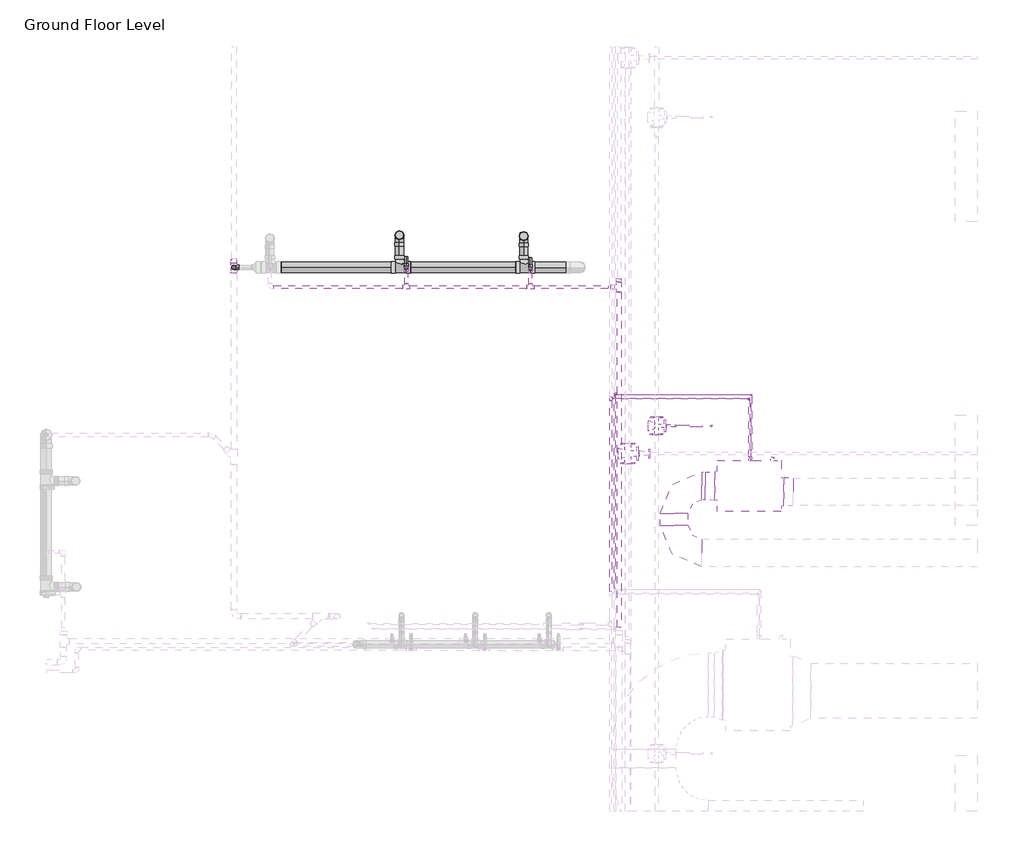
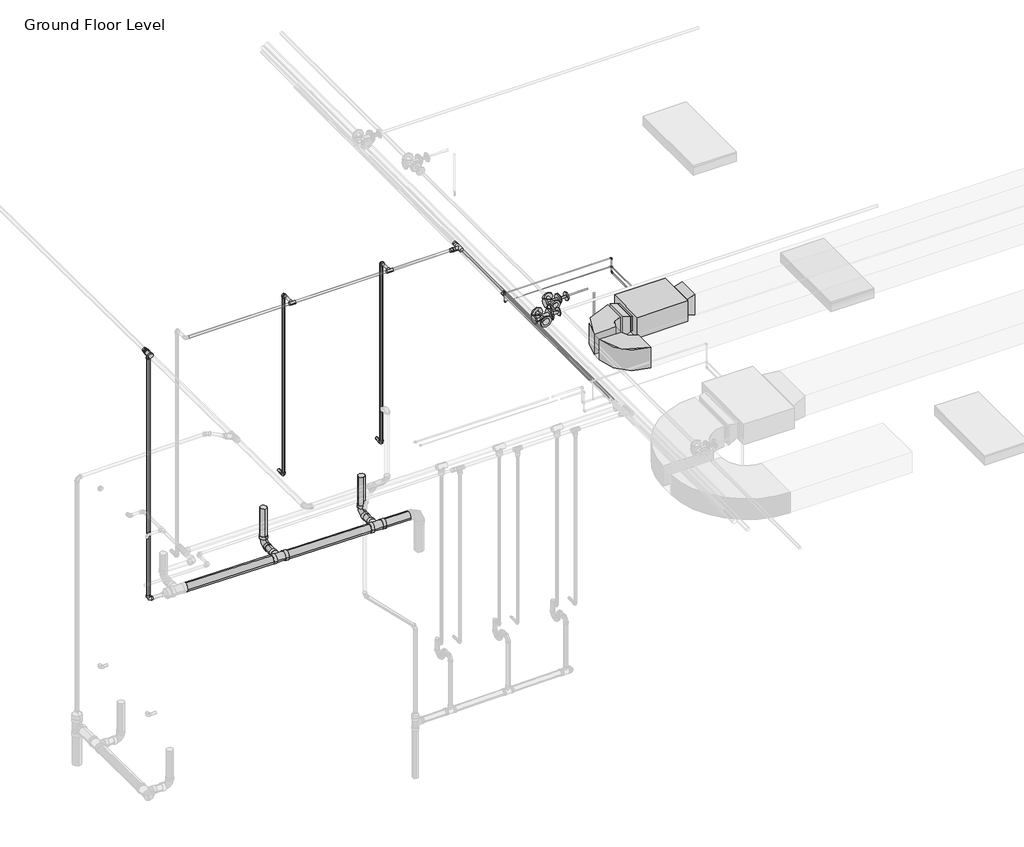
# One storey, part 20 of 74: 29 pipe segments, 28 pipe fittings, 4 duct fittings, 2 duct segments, 1 fire suppression terminal, 1 proxy.
"""IFC4 building model written with IfcOpenShell, lengths in millimetres."""

from ifc_helpers import new_model, si_unit, point, frame, frame_2d, origin, place, context, project, spatial, polyline, circle_curve, trimmed, segment, composite_curve, outline, extrude, transform, mapped, element, save
from components import fcu_daikin_iu_27d020f6, m_rectangular_elbow_radius_1_w_618da153, m_rectangular_transition_angle_45_degree_bfac0661, m_rectangular_transition_angle_45_degree_d4666cfa, m_sprinkler_pendent_15_mm_pendent_06fcbd8e, m_bend_pvc_sch_40_dwv_standard_a4b99d37, m_bend_pvc_sch_40_dwv_standard_877aed9a, m_elbow_generic_standard_a088f956, m_elbow_generic_standard_2a704253, m_reducer_flanged_cs_class_150_standard_d42b2106, m_reducer_flanged_cs_class_150_standard_a7631c35, m_reducer_pvc_sch_40_dwv_standard_230e9924, m_tee_generic_standard_5b2ed4d4, m_tee_generic_standard_5078887e, m_tee_reducing_sanitary_pvc_sch_40_dwv_standard_b49161a9, m_tee_reducing_sanitary_pvc_sch_40_dwv_standard_ca98856a, m_tee_round_base_flanged_cs_class_150_standard_dd767e04, m_tee_round_base_flanged_cs_class_150_standard_7e5987a1, m_transition_generic_standard_44e35838, m_transition_generic_standard_2d362458, standard_517a5a8d, standard_72b35c3b, standard_08ff6011, standard_d0d0b892

model = new_model("IFC4")

# Units and contexts
model_context = context("Model", 3, world=origin())
ifc_project = project(units=[si_unit("LENGTHUNIT", "METRE", prefix="MILLI")], contexts=[model_context])

# Site, building, storey
site = spatial("IfcSite", under=ifc_project)
building = spatial("IfcBuilding", under=site)
storey = spatial("IfcBuildingStorey", under=building, Name="Ground Floor Level", Elevation=900.0)

# Proxy
placement = place(None, origin())
fcu_daikin_iu_shape = fcu_daikin_iu_27d020f6(model_context)
element("IfcBuildingElementProxy", 1, Name="FCU-DAIKIN IU : 2.3kW, 230V/50Hz/1Ph", ObjectType="FCU-DAIKIN IU : 2.3kW, 230V/50Hz/1Ph", at=placement, inside=storey, context=model_context, shape_type="MappedRepresentation", body=[
    mapped(fcu_daikin_iu_shape, transform((7003.8644074, -31136.6877703, 4080.0), x_axis=(0.0, 1.0, 0.0), y_axis=(-1.0, 0.0, 0.0), z_axis=(0.0, 0.0, 1.0))),
])

# Duct fittings
m_rectangular_elbow_radius_1_w_shape = m_rectangular_elbow_radius_1_w_618da153(model_context)
element("IfcDuctFitting", 2, ObjectType="M_Rectangular Elbow - Radius : 1 W", at=placement, inside=storey, context=model_context, shape_type="MappedRepresentation", body=[
    mapped(m_rectangular_elbow_radius_1_w_shape, transform((6188.4644074, -31136.6877703, 4221.2), x_axis=(-1.0, 0.0, 0.0), y_axis=(0.0, -1.0, 0.0), z_axis=(0.0, 0.0, 1.0))),
])
element("IfcDuctFitting", 3, ObjectType="M_Rectangular Elbow - Radius : 1 W", at=placement, inside=storey, context=model_context, shape_type="MappedRepresentation", body=[
    mapped(m_rectangular_elbow_radius_1_w_shape, transform((6188.4644074, -31864.7846466, 4221.2), x_axis=(0.0, -1.0, 0.0), y_axis=(1.0, 0.0, 0.0), z_axis=(0.0, 0.0, 1.0))),
])
m_rectangular_transition_angle_45_degree_shape = m_rectangular_transition_angle_45_degree_bfac0661(model_context)
element("IfcDuctFitting", 4, ObjectType="M_Rectangular Transition - Angle : 45 Degree", at=placement, inside=storey, context=model_context, shape_type="MappedRepresentation", body=[
    mapped(m_rectangular_transition_angle_45_degree_shape, transform((6628.4644074, -31136.6877703, 4221.2), x_axis=(-1.0, 0.0, 0.0), y_axis=(0.0, -1.0, 0.0), z_axis=(0.0, 0.0, 1.0))),
])
m_rectangular_transition_angle_45_degree_2_shape = m_rectangular_transition_angle_45_degree_d4666cfa(model_context)
element("IfcDuctFitting", 5, ObjectType="M_Rectangular Transition - Angle : 45 Degree", at=placement, inside=storey, context=model_context, shape_type="MappedRepresentation", body=[
    mapped(m_rectangular_transition_angle_45_degree_2_shape, transform((7379.2644074, -31200.1877703, 4245.9125), x_axis=(1.0, 0.0, 0.0), y_axis=(0.0, 1.0, 0.0), z_axis=(0.0, 0.0, 1.0))),
])

# Duct segments
element("IfcDuctSegment", 6, ObjectType="Radius Elbows / Taps", at=placement, inside=storey, context=model_context, shape_type="SweptSolid", body=[
    extrude(outline(polyline([(6525.0153563, -30986.6877703), (6525.0153563, -31286.6877703), (6488.4644074, -31286.6877703), (6488.4644074, -30986.6877703), (6525.0153563, -30986.6877703)])), frame((0.0, 0.0, 4071.2), z_axis=(0.0, 0.0, 1.0), x_axis=(1.0, 0.0, 0.0)), (0.0, 0.0, 1.0), 300.0),
])
element("IfcDuctSegment", 7, ObjectType="Radius Elbows / Taps", at=placement, inside=storey, context=model_context, shape_type="SweptSolid", body=[
    extrude(outline(polyline([(6038.4644074, -31436.6877703), (6338.4644074, -31436.6877703), (6338.4644074, -31564.7846466), (6038.4644074, -31564.7846466), (6038.4644074, -31436.6877703)])), frame((0.0, 0.0, 4071.2), z_axis=(0.0, 0.0, 1.0), x_axis=(1.0, 0.0, 0.0)), (0.0, 0.0, 1.0), 300.0),
])

# Fire suppression terminal
m_sprinkler_pendent_15_mm_pendent_shape = m_sprinkler_pendent_15_mm_pendent_06fcbd8e(model_context)
element("IfcFireSuppressionTerminal", 8, ObjectType="M_Sprinkler - Pendent : 15 mm Pendent", at=placement, inside=storey, context=model_context, shape_type="MappedRepresentation", body=[
    mapped(m_sprinkler_pendent_15_mm_pendent_shape, transform((6592.5481019, -30483.0742399, 3650.0), x_axis=(1.0, 0.0, 0.0), y_axis=(0.0, 1.0, 0.0), z_axis=(0.0, 0.0, 1.0))),
])

# Pipe fittings
m_bend_pvc_sch_40_dwv_standard_shape = m_bend_pvc_sch_40_dwv_standard_a4b99d37(model_context)
element("IfcPipeFitting", 9, ObjectType="M_Bend - PVC - Sch 40 - DWV : Standard", at=placement, inside=storey, context=model_context, shape_type="MappedRepresentation", body=[
    mapped(m_bend_pvc_sch_40_dwv_standard_shape, transform((3203.6056556, -28411.2419494, 467.9903626), x_axis=(0.0, 0.0, -1.0), y_axis=(0.0, -1.0, 0.0), z_axis=(-1.0, 0.0, 0.0))),
])
element("IfcPipeFitting", 10, ObjectType="M_Bend - PVC - Sch 40 - DWV : Standard", at=placement, inside=storey, context=model_context, shape_type="MappedRepresentation", body=[
    mapped(m_bend_pvc_sch_40_dwv_standard_shape, transform((4553.7150181, -28421.2419494, 454.489269), x_axis=(0.0, 0.0, -1.0), y_axis=(0.0, -1.0, 0.0), z_axis=(-1.0, 0.0, 0.0))),
])
m_bend_pvc_sch_40_dwv_standard_2_shape = m_bend_pvc_sch_40_dwv_standard_877aed9a(model_context)
element("IfcPipeFitting", 11, ObjectType="M_Bend - PVC - Sch 40 - DWV : Standard", at=placement, inside=storey, context=model_context, shape_type="MappedRepresentation", body=[
    mapped(m_bend_pvc_sch_40_dwv_standard_2_shape, transform((1404.8669708, -28761.5689421, 485.9777495), x_axis=(-0.9999500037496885, 0.0, 0.009999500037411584), y_axis=(0.009999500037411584, 0.0, 0.9999500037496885), z_axis=(0.0, 1.0, 0.0))),
])
m_elbow_generic_standard_shape = m_elbow_generic_standard_a088f956(model_context)
element("IfcPipeFitting", 12, ObjectType="M_Elbow - Generic : Standard", at=placement, inside=storey, context=model_context, shape_type="MappedRepresentation", body=[
    mapped(m_elbow_generic_standard_shape, transform((7003.8644074, -30187.4513653, 4390.0), x_axis=(1.0, 0.0, 0.0), y_axis=(0.0, 0.0, -1.0), z_axis=(0.0, 1.0, 0.0))),
])
element("IfcPipeFitting", 13, ObjectType="M_Elbow - Generic : Standard", at=placement, inside=storey, context=model_context, shape_type="MappedRepresentation", body=[
    mapped(m_elbow_generic_standard_shape, transform((7003.8644074, -30187.4513653, 4180.0), x_axis=(0.0, 0.0, -1.0), y_axis=(0.0, -1.0, 0.0), z_axis=(-1.0, 0.0, 0.0))),
])
m_elbow_generic_standard_2_shape = m_elbow_generic_standard_2a704253(model_context)
element("IfcPipeFitting", 14, ObjectType="M_Elbow - Generic : Standard", at=placement, inside=storey, context=model_context, shape_type="MappedRepresentation", body=[
    mapped(m_elbow_generic_standard_2_shape, transform((7028.8644074, -30144.9316538, 4230.8), x_axis=(0.0, 1.0, 0.0), y_axis=(-1.0, 0.0, 0.0), z_axis=(0.0, 0.0, 1.0))),
])
element("IfcPipeFitting", 15, ObjectType="M_Elbow - Generic : Standard", at=placement, inside=storey, context=model_context, shape_type="MappedRepresentation", body=[
    mapped(m_elbow_generic_standard_2_shape, transform((5543.9904113, -30144.9316538, 4230.8), x_axis=(0.0, 0.0, -1.0), y_axis=(1.0, 0.0, 0.0), z_axis=(0.0, -1.0, 0.0))),
])
m_reducer_flanged_cs_class_150_standard_shape = m_reducer_flanged_cs_class_150_standard_d42b2106(model_context)
element("IfcPipeFitting", 16, ObjectType="M_Reducer - Flanged - CS - Class 150 : Standard", at=placement, inside=storey, context=model_context, shape_type="MappedRepresentation", body=[
    mapped(m_reducer_flanged_cs_class_150_standard_shape, transform((6097.7664057, -30483.0742399, 4291.2754753), x_axis=(1.0, 0.0, 0.0), y_axis=(0.0, 0.0, -1.0), z_axis=(0.0, 1.0, 0.0))),
])
m_reducer_flanged_cs_class_150_standard_2_shape = m_reducer_flanged_cs_class_150_standard_a7631c35(model_context)
element("IfcPipeFitting", 17, ObjectType="M_Reducer - Flanged - CS - Class 150 : Standard", at=placement, inside=storey, context=model_context, shape_type="MappedRepresentation", body=[
    mapped(m_reducer_flanged_cs_class_150_standard_2_shape, transform((5798.6174894, -30785.1783804, 4347.5), x_axis=(1.0, 0.0, 0.0), y_axis=(0.0, 0.0, 1.0), z_axis=(0.0, -1.0, 0.0))),
])
m_reducer_pvc_sch_40_dwv_standard_shape = m_reducer_pvc_sch_40_dwv_standard_230e9924(model_context)
element("IfcPipeFitting", 18, ObjectType="M_Reducer - PVC - Sch 40 - DWV : Standard", at=placement, inside=storey, context=model_context, shape_type="MappedRepresentation", body=[
    mapped(m_reducer_pvc_sch_40_dwv_standard_shape, transform((1404.8829692, -28664.0719039, 4086.0016836), x_axis=(0.0, -0.9999500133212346, 0.00999854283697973), y_axis=(1.0, 0.0, 0.0), z_axis=(0.0, 0.00999854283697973, 0.9999500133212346))),
])
m_tee_generic_standard_shape = m_tee_generic_standard_5b2ed4d4(model_context)
element("IfcPipeFitting", 19, ObjectType="M_Tee - Generic : Standard", at=placement, inside=storey, context=model_context, shape_type="MappedRepresentation", body=[
    mapped(m_tee_generic_standard_shape, transform((5543.9904113, -30144.9316538, 4377.5), x_axis=(0.0, -1.0, 0.0), y_axis=(0.0, 0.0, 1.0), z_axis=(-1.0, 0.0, 0.0))),
])
m_tee_generic_standard_2_shape = m_tee_generic_standard_5078887e(model_context)
element("IfcPipeFitting", 20, ObjectType="M_Tee - Generic : Standard", at=placement, inside=storey, context=model_context, shape_type="MappedRepresentation", body=[
    mapped(m_tee_generic_standard_2_shape, transform((5497.8951827, -30187.4513653, 4390.0), x_axis=(0.0, -1.0, 0.0), y_axis=(-1.0, 0.0, 0.0), z_axis=(0.0, 0.0, -1.0))),
])
m_tee_reducing_sanitary_pvc_sch_40_dwv_standard_shape = m_tee_reducing_sanitary_pvc_sch_40_dwv_standard_b49161a9(model_context)
element("IfcPipeFitting", 21, ObjectType="M_Tee Reducing Sanitary - PVC - Sch 40 - DWV : Standard", at=placement, inside=storey, context=model_context, shape_type="MappedRepresentation", body=[
    mapped(m_tee_reducing_sanitary_pvc_sch_40_dwv_standard_shape, transform((3203.6056556, -28761.5689421, 467.9903626), x_axis=(-0.9999500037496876, 0.0, 0.00999950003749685), y_axis=(0.0, -1.0, 0.0), z_axis=(0.00999950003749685, 0.0, 0.9999500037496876))),
])
element("IfcPipeFitting", 22, ObjectType="M_Tee Reducing Sanitary - PVC - Sch 40 - DWV : Standard", at=placement, inside=storey, context=model_context, shape_type="MappedRepresentation", body=[
    mapped(m_tee_reducing_sanitary_pvc_sch_40_dwv_standard_shape, transform((4553.7150181, -28761.5689421, 454.489269), x_axis=(-0.9999500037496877, 0.0, 0.009999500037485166), y_axis=(0.0, -1.0, 0.0), z_axis=(0.009999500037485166, 0.0, 0.9999500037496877))),
])
m_tee_reducing_sanitary_pvc_sch_40_dwv_standard_2_shape = m_tee_reducing_sanitary_pvc_sch_40_dwv_standard_ca98856a(model_context)
element("IfcPipeFitting", 23, ObjectType="M_Tee Reducing Sanitary - PVC - Sch 40 - DWV : Standard", at=placement, inside=storey, context=model_context, shape_type="MappedRepresentation", body=[
    mapped(m_tee_reducing_sanitary_pvc_sch_40_dwv_standard_2_shape, transform((1404.8829692, -28761.5849374, 4087.2766918), x_axis=(0.0, 0.9999500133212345, -0.009998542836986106), y_axis=(0.0, 0.009998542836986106, 0.9999500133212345), z_axis=(1.0, 0.0, 0.0))),
])
m_tee_round_base_flanged_cs_class_150_standard_shape = m_tee_round_base_flanged_cs_class_150_standard_dd767e04(model_context)
element("IfcPipeFitting", 24, ObjectType="M_Tee Round Base - Flanged - CS - Class 150 : Standard", at=placement, inside=storey, context=model_context, shape_type="MappedRepresentation", body=[
    mapped(m_tee_round_base_flanged_cs_class_150_standard_shape, transform((5684.6174894, -30785.1783804, 4347.5), x_axis=(0.0, -1.0, 0.0), y_axis=(-1.0, 0.0, 0.0), z_axis=(0.0, 0.0, -1.0))),
])
m_tee_round_base_flanged_cs_class_150_standard_2_shape = m_tee_round_base_flanged_cs_class_150_standard_7e5987a1(model_context)
element("IfcPipeFitting", 25, ObjectType="M_Tee Round Base - Flanged - CS - Class 150 : Standard", at=placement, inside=storey, context=model_context, shape_type="MappedRepresentation", body=[
    mapped(m_tee_round_base_flanged_cs_class_150_standard_2_shape, transform((5997.057812, -30483.0742399, 4291.0943441), x_axis=(0.0, 1.0, 0.0), y_axis=(-1.0, 0.0, 0.0), z_axis=(0.0, 0.0, 1.0))),
])
m_transition_generic_standard_shape = m_transition_generic_standard_44e35838(model_context)
element("IfcPipeFitting", 26, ObjectType="M_Transition - Generic : Standard", at=placement, inside=storey, context=model_context, shape_type="MappedRepresentation", body=[
    mapped(m_transition_generic_standard_shape, transform((5521.7076827, -30187.4513653, 4390.0), x_axis=(1.0, 0.0, 0.0), y_axis=(0.0, 1.0, 0.0), z_axis=(0.0, 0.0, 1.0))),
])
m_transition_generic_standard_2_shape = m_transition_generic_standard_2d362458(model_context)
element("IfcPipeFitting", 27, ObjectType="M_Transition - Generic : Standard", at=placement, inside=storey, context=model_context, shape_type="MappedRepresentation", body=[
    mapped(m_transition_generic_standard_2_shape, transform((5543.9904113, -30144.9316538, 4356.8625), x_axis=(0.0, 0.0, -1.0), y_axis=(1.0, 0.0, 0.0), z_axis=(0.0, -1.0, 0.0))),
])
standard_shape = standard_517a5a8d(model_context)
element("IfcPipeFitting", 28, ObjectType="M_Elbow - CPVC - Sch 40 : Standard", at=placement, inside=storey, context=model_context, shape_type="MappedRepresentation", body=[
    mapped(standard_shape, transform((4627.1152882, -28774.7846466, 1655.0), x_axis=(0.0, -1.0, 0.0), y_axis=(0.0, 0.0, 1.0), z_axis=(-1.0, 0.0, 0.0))),
])
element("IfcPipeFitting", 29, ObjectType="M_Elbow - CPVC - Sch 40 : Standard", at=placement, inside=storey, context=model_context, shape_type="MappedRepresentation", body=[
    mapped(standard_shape, transform((4627.1152882, -28774.7846466, 4300.0), x_axis=(0.0, 0.0, 1.0), y_axis=(0.0, -1.0, 0.0), z_axis=(1.0, 0.0, 0.0))),
])
element("IfcPipeFitting", 30, ObjectType="M_Elbow - CPVC - Sch 40 : Standard", at=placement, inside=storey, context=model_context, shape_type="MappedRepresentation", body=[
    mapped(standard_shape, transform((3277.0059257, -28764.7846466, 1655.0), x_axis=(0.0, -1.0, 0.0), y_axis=(0.0, 0.0, 1.0), z_axis=(-1.0, 0.0, 0.0))),
])
element("IfcPipeFitting", 31, ObjectType="M_Elbow - CPVC - Sch 40 : Standard", at=placement, inside=storey, context=model_context, shape_type="MappedRepresentation", body=[
    mapped(standard_shape, transform((3277.0059257, -28764.7846466, 4300.0), x_axis=(0.0, 0.0, 1.0), y_axis=(0.0, -1.0, 0.0), z_axis=(1.0, 0.0, 0.0))),
])
standard_2_shape = standard_72b35c3b(model_context)
element("IfcPipeFitting", 32, ObjectType="M_Tee - CPVC - Sch 40 : Standard", at=placement, inside=storey, context=model_context, shape_type="MappedRepresentation", body=[
    mapped(standard_2_shape, transform((4627.1152882, -28974.7846466, 4300.0), x_axis=(-1.0, 0.0, 0.0), y_axis=(0.0, -1.0, 0.0), z_axis=(0.0, 0.0, 1.0))),
])
element("IfcPipeFitting", 33, ObjectType="M_Tee - CPVC - Sch 40 : Standard", at=placement, inside=storey, context=model_context, shape_type="MappedRepresentation", body=[
    mapped(standard_2_shape, transform((3277.0059257, -28974.7846466, 4300.0), x_axis=(1.0, 0.0, 0.0), y_axis=(0.0, -1.0, 0.0), z_axis=(0.0, 0.0, -1.0))),
])
standard_3_shape = standard_08ff6011(model_context)
element("IfcPipeFitting", 34, ObjectType="M_Tee - CPVC - Sch 40 : Standard", at=placement, inside=storey, context=model_context, shape_type="MappedRepresentation", body=[
    mapped(standard_3_shape, transform((5589.646628, -28974.7846466, 4300.0), x_axis=(0.0, 1.0, 0.0), y_axis=(1.0, 0.0, 0.0), z_axis=(0.0, 0.0, -1.0))),
])
standard_4_shape = standard_d0d0b892(model_context)
element("IfcPipeFitting", 35, ObjectType="M_Coupling Reducing - CPVC - Sch 40 : Standard", at=placement, inside=storey, context=model_context, shape_type="MappedRepresentation", body=[
    mapped(standard_4_shape, transform((5589.646628, -28920.8096466, 4300.0), x_axis=(0.0, 1.0, 0.0), y_axis=(-1.0, 0.0, 0.0), z_axis=(0.0, 0.0, 1.0))),
])
element("IfcPipeFitting", 36, ObjectType="M_Coupling Reducing - CPVC - Sch 40 : Standard", at=placement, inside=storey, context=model_context, shape_type="MappedRepresentation", body=[
    mapped(standard_4_shape, transform((5535.671628, -28974.7846466, 4300.0), x_axis=(-1.0, 0.0, 0.0), y_axis=(0.0, -1.0, 0.0), z_axis=(0.0, 0.0, 1.0))),
])

# Pipe segments
element("IfcPipeSegment", 37, ObjectType="CPVC", at=placement, inside=storey, context=model_context, shape_type="SweptSolid", body=[
    extrude(outline(composite_curve([segment(trimmed(circle_curve(frame_2d((1655.0, 4627.1152882)), 16.7005), [point((1655.0, 4610.4147882))], [point((1638.2995, 4627.1152882))], False, "CARTESIAN"), True, "CONTINUOUS"), segment(trimmed(circle_curve(frame_2d((1655.0, 4627.1152882)), 16.7005), [point((1638.2995, 4627.1152882))], [point((1655.0, 4643.8157882))], False, "CARTESIAN"), True, "CONTINUOUS"), segment(trimmed(circle_curve(frame_2d((1655.0, 4627.1152882)), 16.7005), [point((1655.0, 4643.8157882))], [point((1671.7005, 4627.1152882))], False, "CARTESIAN"), True, "CONTINUOUS"), segment(trimmed(circle_curve(frame_2d((1655.0, 4627.1152882)), 16.7005), [point((1671.7005, 4627.1152882))], [point((1655.0, 4610.4147882))], False, "CARTESIAN"), True, "CONTINUOUS")], self_intersect=False)), frame((0.0, -28731.5220966, 0.0), z_axis=(0.0, 1.0, 0.0), x_axis=(0.0, 0.0, 1.0)), (0.0, 0.0, 1.0), 76.73745),
])
element("IfcPipeSegment", 38, ObjectType="CPVC", at=placement, inside=storey, context=model_context, shape_type="SweptSolid", body=[
    extrude(outline(composite_curve([segment(trimmed(circle_curve(frame_2d((4300.0, 4627.1152882)), 16.7005), [point((4300.0, 4610.4147882))], [point((4283.2995, 4627.1152882))], False, "CARTESIAN"), True, "CONTINUOUS"), segment(trimmed(circle_curve(frame_2d((4300.0, 4627.1152882)), 16.7005), [point((4283.2995, 4627.1152882))], [point((4300.0, 4643.8157882))], False, "CARTESIAN"), True, "CONTINUOUS"), segment(trimmed(circle_curve(frame_2d((4300.0, 4627.1152882)), 16.7005), [point((4300.0, 4643.8157882))], [point((4316.7005, 4627.1152882))], False, "CARTESIAN"), True, "CONTINUOUS"), segment(trimmed(circle_curve(frame_2d((4300.0, 4627.1152882)), 16.7005), [point((4316.7005, 4627.1152882))], [point((4300.0, 4610.4147882))], False, "CARTESIAN"), True, "CONTINUOUS")], self_intersect=False)), frame((0.0, -28935.0844466, 0.0), z_axis=(0.0, 1.0, 0.0), x_axis=(0.0, 0.0, 1.0)), (0.0, 0.0, 1.0), 117.03725),
])
element("IfcPipeSegment", 39, ObjectType="CPVC", at=placement, inside=storey, context=model_context, shape_type="SweptSolid", body=[
    extrude(outline(composite_curve([segment(trimmed(circle_curve(frame_2d((4627.1152882, -28774.7846466)), 16.7005), [point((4610.4147882, -28774.7846466))], [point((4627.1152882, -28758.0841466))], False, "CARTESIAN"), True, "CONTINUOUS"), segment(trimmed(circle_curve(frame_2d((4627.1152882, -28774.7846466)), 16.7005), [point((4627.1152882, -28758.0841466))], [point((4643.8157882, -28774.7846466))], False, "CARTESIAN"), True, "CONTINUOUS"), segment(trimmed(circle_curve(frame_2d((4627.1152882, -28774.7846466)), 16.7005), [point((4643.8157882, -28774.7846466))], [point((4627.1152882, -28791.4851466))], False, "CARTESIAN"), True, "CONTINUOUS"), segment(trimmed(circle_curve(frame_2d((4627.1152882, -28774.7846466)), 16.7005), [point((4627.1152882, -28791.4851466))], [point((4610.4147882, -28774.7846466))], False, "CARTESIAN"), True, "CONTINUOUS")], self_intersect=False)), frame((0.0, 0.0, 1698.26255), z_axis=(0.0, 0.0, 1.0), x_axis=(1.0, 0.0, 0.0)), (0.0, 0.0, 1.0), 2558.4749),
])
element("IfcPipeSegment", 40, ObjectType="CPVC", at=placement, inside=storey, context=model_context, shape_type="SweptSolid", body=[
    extrude(outline(composite_curve([segment(trimmed(circle_curve(frame_2d((-28974.7846466, 4300.0)), 16.7005), [point((-28958.0841466, 4300.0))], [point((-28974.7846466, 4283.2995))], False, "CARTESIAN"), True, "CONTINUOUS"), segment(trimmed(circle_curve(frame_2d((-28974.7846466, 4300.0)), 16.7005), [point((-28974.7846466, 4283.2995))], [point((-28991.4851466, 4300.0))], False, "CARTESIAN"), True, "CONTINUOUS"), segment(trimmed(circle_curve(frame_2d((-28974.7846466, 4300.0)), 16.7005), [point((-28991.4851466, 4300.0))], [point((-28974.7846466, 4316.7005))], False, "CARTESIAN"), True, "CONTINUOUS"), segment(trimmed(circle_curve(frame_2d((-28974.7846466, 4300.0)), 16.7005), [point((-28974.7846466, 4316.7005))], [point((-28958.0841466, 4300.0))], False, "CARTESIAN"), True, "CONTINUOUS")], self_intersect=False)), frame((4666.8154882, 0.0, 0.0), z_axis=(1.0, 0.0, 0.0), x_axis=(0.0, 1.0, 0.0)), (0.0, 0.0, 1.0), 802.7372648),
])
element("IfcPipeSegment", 41, ObjectType="CPVC", at=placement, inside=storey, context=model_context, shape_type="SweptSolid", body=[
    extrude(outline(composite_curve([segment(trimmed(circle_curve(frame_2d((-28974.7846466, 4300.0)), 16.7005), [point((-28958.0841466, 4300.0))], [point((-28974.7846466, 4283.2995))], False, "CARTESIAN"), True, "CONTINUOUS"), segment(trimmed(circle_curve(frame_2d((-28974.7846466, 4300.0)), 16.7005), [point((-28974.7846466, 4283.2995))], [point((-28991.4851466, 4300.0))], False, "CARTESIAN"), True, "CONTINUOUS"), segment(trimmed(circle_curve(frame_2d((-28974.7846466, 4300.0)), 16.7005), [point((-28991.4851466, 4300.0))], [point((-28974.7846466, 4316.7005))], False, "CARTESIAN"), True, "CONTINUOUS"), segment(trimmed(circle_curve(frame_2d((-28974.7846466, 4300.0)), 16.7005), [point((-28974.7846466, 4316.7005))], [point((-28958.0841466, 4300.0))], False, "CARTESIAN"), True, "CONTINUOUS")], self_intersect=False)), frame((1840.0213414, 0.0, 0.0), z_axis=(1.0, 0.0, 0.0), x_axis=(0.0, 1.0, 0.0)), (0.0, 0.0, 1.0), 1397.2843843),
])
element("IfcPipeSegment", 42, ObjectType="CPVC", at=placement, inside=storey, context=model_context, shape_type="SweptSolid", body=[
    extrude(outline(composite_curve([segment(trimmed(circle_curve(frame_2d((1655.0, 3277.0059257)), 16.7005), [point((1655.0, 3260.3054257))], [point((1638.2995, 3277.0059257))], False, "CARTESIAN"), True, "CONTINUOUS"), segment(trimmed(circle_curve(frame_2d((1655.0, 3277.0059257)), 16.7005), [point((1638.2995, 3277.0059257))], [point((1655.0, 3293.7064257))], False, "CARTESIAN"), True, "CONTINUOUS"), segment(trimmed(circle_curve(frame_2d((1655.0, 3277.0059257)), 16.7005), [point((1655.0, 3293.7064257))], [point((1671.7005, 3277.0059257))], False, "CARTESIAN"), True, "CONTINUOUS"), segment(trimmed(circle_curve(frame_2d((1655.0, 3277.0059257)), 16.7005), [point((1671.7005, 3277.0059257))], [point((1655.0, 3260.3054257))], False, "CARTESIAN"), True, "CONTINUOUS")], self_intersect=False)), frame((0.0, -28721.5220966, 0.0), z_axis=(0.0, 1.0, 0.0), x_axis=(0.0, 0.0, 1.0)), (0.0, 0.0, 1.0), 76.73745),
])
element("IfcPipeSegment", 43, ObjectType="CPVC", at=placement, inside=storey, context=model_context, shape_type="SweptSolid", body=[
    extrude(outline(composite_curve([segment(trimmed(circle_curve(frame_2d((4300.0, 3277.0059257)), 16.7005), [point((4300.0, 3293.7064257))], [point((4316.7005, 3277.0059257))], False, "CARTESIAN"), True, "CONTINUOUS"), segment(trimmed(circle_curve(frame_2d((4300.0, 3277.0059257)), 16.7005), [point((4316.7005, 3277.0059257))], [point((4300.0, 3260.3054257))], False, "CARTESIAN"), True, "CONTINUOUS"), segment(trimmed(circle_curve(frame_2d((4300.0, 3277.0059257)), 16.7005), [point((4300.0, 3260.3054257))], [point((4283.2995, 3277.0059257))], False, "CARTESIAN"), True, "CONTINUOUS"), segment(trimmed(circle_curve(frame_2d((4300.0, 3277.0059257)), 16.7005), [point((4283.2995, 3277.0059257))], [point((4300.0, 3293.7064257))], False, "CARTESIAN"), True, "CONTINUOUS")], self_intersect=False)), frame((0.0, -28935.0844466, 0.0), z_axis=(0.0, 1.0, 0.0), x_axis=(0.0, 0.0, 1.0)), (0.0, 0.0, 1.0), 127.03725),
])
element("IfcPipeSegment", 44, ObjectType="CPVC", at=placement, inside=storey, context=model_context, shape_type="SweptSolid", body=[
    extrude(outline(composite_curve([segment(trimmed(circle_curve(frame_2d((3277.0059257, -28764.7846466)), 16.7005), [point((3260.3054257, -28764.7846466))], [point((3277.0059257, -28748.0841466))], False, "CARTESIAN"), True, "CONTINUOUS"), segment(trimmed(circle_curve(frame_2d((3277.0059257, -28764.7846466)), 16.7005), [point((3277.0059257, -28748.0841466))], [point((3293.7064257, -28764.7846466))], False, "CARTESIAN"), True, "CONTINUOUS"), segment(trimmed(circle_curve(frame_2d((3277.0059257, -28764.7846466)), 16.7005), [point((3293.7064257, -28764.7846466))], [point((3277.0059257, -28781.4851466))], False, "CARTESIAN"), True, "CONTINUOUS"), segment(trimmed(circle_curve(frame_2d((3277.0059257, -28764.7846466)), 16.7005), [point((3277.0059257, -28781.4851466))], [point((3260.3054257, -28764.7846466))], False, "CARTESIAN"), True, "CONTINUOUS")], self_intersect=False)), frame((0.0, 0.0, 1698.26255), z_axis=(0.0, 0.0, 1.0), x_axis=(1.0, 0.0, 0.0)), (0.0, 0.0, 1.0), 2558.4749),
])
element("IfcPipeSegment", 45, ObjectType="CPVC", at=placement, inside=storey, context=model_context, shape_type="SweptSolid", body=[
    extrude(outline(composite_curve([segment(trimmed(circle_curve(frame_2d((-28974.7846466, 4300.0)), 16.7005), [point((-28958.0841466, 4300.0))], [point((-28974.7846466, 4283.2995))], False, "CARTESIAN"), True, "CONTINUOUS"), segment(trimmed(circle_curve(frame_2d((-28974.7846466, 4300.0)), 16.7005), [point((-28974.7846466, 4283.2995))], [point((-28991.4851466, 4300.0))], False, "CARTESIAN"), True, "CONTINUOUS"), segment(trimmed(circle_curve(frame_2d((-28974.7846466, 4300.0)), 16.7005), [point((-28991.4851466, 4300.0))], [point((-28974.7846466, 4316.7005))], False, "CARTESIAN"), True, "CONTINUOUS"), segment(trimmed(circle_curve(frame_2d((-28974.7846466, 4300.0)), 16.7005), [point((-28974.7846466, 4316.7005))], [point((-28958.0841466, 4300.0))], False, "CARTESIAN"), True, "CONTINUOUS")], self_intersect=False)), frame((3316.7061257, 0.0, 0.0), z_axis=(1.0, 0.0, 0.0), x_axis=(0.0, 1.0, 0.0)), (0.0, 0.0, 1.0), 1270.7089625),
])
element("IfcPipeSegment", 46, ObjectType="CPVC", at=placement, inside=storey, context=model_context, shape_type="SweptSolid", body=[
    extrude(outline(composite_curve([segment(trimmed(circle_curve(frame_2d((4300.0, 5589.646628)), 21.082), [point((4300.0, 5568.564628))], [point((4278.918, 5589.646628))], False, "CARTESIAN"), True, "CONTINUOUS"), segment(trimmed(circle_curve(frame_2d((4300.0, 5589.646628)), 21.082), [point((4278.918, 5589.646628))], [point((4300.0, 5610.728628))], False, "CARTESIAN"), True, "CONTINUOUS"), segment(trimmed(circle_curve(frame_2d((4300.0, 5589.646628)), 21.082), [point((4300.0, 5610.728628))], [point((4321.082, 5589.646628))], False, "CARTESIAN"), True, "CONTINUOUS"), segment(trimmed(circle_curve(frame_2d((4300.0, 5589.646628)), 21.082), [point((4321.082, 5589.646628))], [point((4300.0, 5568.564628))], False, "CARTESIAN"), True, "CONTINUOUS")], self_intersect=False)), frame((0.0, -32672.9715951, 0.0), z_axis=(0.0, 1.0, 0.0), x_axis=(0.0, 0.0, 1.0)), (0.0, 0.0, 1.0), 3644.2119485),
])
element("IfcPipeSegment", 47, ObjectType="Copper", at=placement, inside=storey, context=model_context, shape_type="SweptSolid", body=[
    extrude(outline(composite_curve([segment(trimmed(circle_curve(frame_2d((-30187.4513653, 4390.0)), 6.5), [point((-30193.9513653, 4390.0))], [point((-30187.4513653, 4396.5))], False, "CARTESIAN"), True, "CONTINUOUS"), segment(trimmed(circle_curve(frame_2d((-30187.4513653, 4390.0)), 6.5), [point((-30187.4513653, 4396.5))], [point((-30180.9513653, 4390.0))], False, "CARTESIAN"), True, "CONTINUOUS"), segment(trimmed(circle_curve(frame_2d((-30187.4513653, 4390.0)), 6.5), [point((-30180.9513653, 4390.0))], [point((-30187.4513653, 4383.5))], False, "CARTESIAN"), True, "CONTINUOUS"), segment(trimmed(circle_curve(frame_2d((-30187.4513653, 4390.0)), 6.5), [point((-30187.4513653, 4383.5))], [point((-30193.9513653, 4390.0))], False, "CARTESIAN"), True, "CONTINUOUS")], self_intersect=False)), frame((5527.2639327, 0.0, 0.0), z_axis=(1.0, 0.0, 0.0), x_axis=(0.0, 1.0, 0.0)), (0.0, 0.0, 1.0), 1462.3129748),
])
element("IfcPipeSegment", 48, ObjectType="Copper", at=placement, inside=storey, context=model_context, shape_type="SweptSolid", body=[
    extrude(outline(composite_curve([segment(trimmed(circle_curve(frame_2d((4390.0, 5497.8951827)), 9.75), [point((4390.0, 5507.6451827))], [point((4399.75, 5497.8951827))], False, "CARTESIAN"), True, "CONTINUOUS"), segment(trimmed(circle_curve(frame_2d((4390.0, 5497.8951827)), 9.75), [point((4399.75, 5497.8951827))], [point((4390.0, 5488.1451827))], False, "CARTESIAN"), True, "CONTINUOUS"), segment(trimmed(circle_curve(frame_2d((4390.0, 5497.8951827)), 9.75), [point((4390.0, 5488.1451827))], [point((4380.25, 5497.8951827))], False, "CARTESIAN"), True, "CONTINUOUS"), segment(trimmed(circle_curve(frame_2d((4390.0, 5497.8951827)), 9.75), [point((4380.25, 5497.8951827))], [point((4390.0, 5507.6451827))], False, "CARTESIAN"), True, "CONTINUOUS")], self_intersect=False)), frame((0.0, -32283.6388653, 0.0), z_axis=(0.0, 1.0, 0.0), x_axis=(0.0, 0.0, 1.0)), (0.0, 0.0, 1.0), 2072.375),
])
element("IfcPipeSegment", 49, ObjectType="Copper", at=placement, inside=storey, context=model_context, shape_type="SweptSolid", body=[
    extrude(outline(composite_curve([segment(trimmed(circle_curve(frame_2d((4180.0, 7003.8644074)), 6.5), [point((4180.0, 6997.3644074))], [point((4173.5, 7003.8644074))], False, "CARTESIAN"), True, "CONTINUOUS"), segment(trimmed(circle_curve(frame_2d((4180.0, 7003.8644074)), 6.5), [point((4173.5, 7003.8644074))], [point((4180.0, 7010.3644074))], False, "CARTESIAN"), True, "CONTINUOUS"), segment(trimmed(circle_curve(frame_2d((4180.0, 7003.8644074)), 6.5), [point((4180.0, 7010.3644074))], [point((4186.5, 7003.8644074))], False, "CARTESIAN"), True, "CONTINUOUS"), segment(trimmed(circle_curve(frame_2d((4180.0, 7003.8644074)), 6.5), [point((4186.5, 7003.8644074))], [point((4180.0, 6997.3644074))], False, "CARTESIAN"), True, "CONTINUOUS")], self_intersect=False)), frame((0.0, -30823.5877703, 0.0), z_axis=(0.0, 1.0, 0.0), x_axis=(0.0, 0.0, 1.0)), (0.0, 0.0, 1.0), 621.8489049),
])
element("IfcPipeSegment", 50, ObjectType="Copper", at=placement, inside=storey, context=model_context, shape_type="SweptSolid", body=[
    extrude(outline(composite_curve([segment(trimmed(circle_curve(frame_2d((4230.8, 7028.8644074)), 3.35), [point((4230.8, 7025.5144074))], [point((4227.45, 7028.8644074))], False, "CARTESIAN"), True, "CONTINUOUS"), segment(trimmed(circle_curve(frame_2d((4230.8, 7028.8644074)), 3.35), [point((4227.45, 7028.8644074))], [point((4230.8, 7032.2144074))], False, "CARTESIAN"), True, "CONTINUOUS"), segment(trimmed(circle_curve(frame_2d((4230.8, 7028.8644074)), 3.35), [point((4230.8, 7032.2144074))], [point((4234.15, 7028.8644074))], False, "CARTESIAN"), True, "CONTINUOUS"), segment(trimmed(circle_curve(frame_2d((4230.8, 7028.8644074)), 3.35), [point((4234.15, 7028.8644074))], [point((4230.8, 7025.5144074))], False, "CARTESIAN"), True, "CONTINUOUS")], self_intersect=False)), frame((0.0, -30823.5877703, 0.0), z_axis=(0.0, 1.0, 0.0), x_axis=(0.0, 0.0, 1.0)), (0.0, 0.0, 1.0), 667.5186165),
])
element("IfcPipeSegment", 51, ObjectType="Copper", at=placement, inside=storey, context=model_context, shape_type="SweptSolid", body=[
    extrude(outline(composite_curve([segment(trimmed(circle_curve(frame_2d((7003.8644074, -30187.4513653)), 6.5), [point((7010.3644074, -30187.4513653))], [point((7003.8644074, -30193.9513653))], False, "CARTESIAN"), True, "CONTINUOUS"), segment(trimmed(circle_curve(frame_2d((7003.8644074, -30187.4513653)), 6.5), [point((7003.8644074, -30193.9513653))], [point((6997.3644074, -30187.4513653))], False, "CARTESIAN"), True, "CONTINUOUS"), segment(trimmed(circle_curve(frame_2d((7003.8644074, -30187.4513653)), 6.5), [point((6997.3644074, -30187.4513653))], [point((7003.8644074, -30180.9513653))], False, "CARTESIAN"), True, "CONTINUOUS"), segment(trimmed(circle_curve(frame_2d((7003.8644074, -30187.4513653)), 6.5), [point((7003.8644074, -30180.9513653))], [point((7010.3644074, -30187.4513653))], False, "CARTESIAN"), True, "CONTINUOUS")], self_intersect=False)), frame((0.0, 0.0, 4194.2875), z_axis=(0.0, 0.0, 1.0), x_axis=(1.0, 0.0, 0.0)), (0.0, 0.0, 1.0), 181.425),
])
element("IfcPipeSegment", 52, ObjectType="Copper", at=placement, inside=storey, context=model_context, shape_type="SweptSolid", body=[
    extrude(outline(composite_curve([segment(trimmed(circle_curve(frame_2d((4377.5, 5543.9904113)), 6.5), [point((4377.5, 5550.4904113))], [point((4384.0, 5543.9904113))], False, "CARTESIAN"), True, "CONTINUOUS"), segment(trimmed(circle_curve(frame_2d((4377.5, 5543.9904113)), 6.5), [point((4384.0, 5543.9904113))], [point((4377.5, 5537.4904113))], False, "CARTESIAN"), True, "CONTINUOUS"), segment(trimmed(circle_curve(frame_2d((4377.5, 5543.9904113)), 6.5), [point((4377.5, 5537.4904113))], [point((4371.0, 5543.9904113))], False, "CARTESIAN"), True, "CONTINUOUS"), segment(trimmed(circle_curve(frame_2d((4377.5, 5543.9904113)), 6.5), [point((4371.0, 5543.9904113))], [point((4377.5, 5550.4904113))], False, "CARTESIAN"), True, "CONTINUOUS")], self_intersect=False)), frame((0.0, -32244.2941538, 0.0), z_axis=(0.0, 1.0, 0.0), x_axis=(0.0, 0.0, 1.0)), (0.0, 0.0, 1.0), 2078.725),
])
element("IfcPipeSegment", 53, ObjectType="Copper", at=placement, inside=storey, context=model_context, shape_type="SweptSolid", body=[
    extrude(outline(composite_curve([segment(trimmed(circle_curve(frame_2d((5543.9904113, -30144.9316538)), 3.35), [point((5547.3404113, -30144.9316538))], [point((5543.9904113, -30148.2816538))], False, "CARTESIAN"), True, "CONTINUOUS"), segment(trimmed(circle_curve(frame_2d((5543.9904113, -30144.9316538)), 3.35), [point((5543.9904113, -30148.2816538))], [point((5540.6404113, -30144.9316538))], False, "CARTESIAN"), True, "CONTINUOUS"), segment(trimmed(circle_curve(frame_2d((5543.9904113, -30144.9316538)), 3.35), [point((5540.6404113, -30144.9316538))], [point((5543.9904113, -30141.5816538))], False, "CARTESIAN"), True, "CONTINUOUS"), segment(trimmed(circle_curve(frame_2d((5543.9904113, -30144.9316538)), 3.35), [point((5543.9904113, -30141.5816538))], [point((5547.3404113, -30144.9316538))], False, "CARTESIAN"), True, "CONTINUOUS")], self_intersect=False)), frame((0.0, 0.0, 4241.9375), z_axis=(0.0, 0.0, 1.0), x_axis=(1.0, 0.0, 0.0)), (0.0, 0.0, 1.0), 110.95625),
])
element("IfcPipeSegment", 54, ObjectType="Copper", at=placement, inside=storey, context=model_context, shape_type="SweptSolid", body=[
    extrude(outline(composite_curve([segment(trimmed(circle_curve(frame_2d((-30144.9316538, 4230.8)), 3.35), [point((-30148.2816538, 4230.8))], [point((-30144.9316538, 4234.15))], False, "CARTESIAN"), True, "CONTINUOUS"), segment(trimmed(circle_curve(frame_2d((-30144.9316538, 4230.8)), 3.35), [point((-30144.9316538, 4234.15))], [point((-30141.5816538, 4230.8))], False, "CARTESIAN"), True, "CONTINUOUS"), segment(trimmed(circle_curve(frame_2d((-30144.9316538, 4230.8)), 3.35), [point((-30141.5816538, 4230.8))], [point((-30144.9316538, 4227.45))], False, "CARTESIAN"), True, "CONTINUOUS"), segment(trimmed(circle_curve(frame_2d((-30144.9316538, 4230.8)), 3.35), [point((-30144.9316538, 4227.45))], [point((-30148.2816538, 4230.8))], False, "CARTESIAN"), True, "CONTINUOUS")], self_intersect=False)), frame((5555.1279113, 0.0, 0.0), z_axis=(1.0, 0.0, 0.0), x_axis=(0.0, 1.0, 0.0)), (0.0, 0.0, 1.0), 1462.5989961),
])
element("IfcPipeSegment", 55, ObjectType="PVC - DWV", at=placement, inside=storey, context=model_context, shape_type="SweptSolid", body=[
    extrude(outline(composite_curve([segment(trimmed(circle_curve(frame_2d((0.0, -44.45)), 44.45), [point((-44.45, -44.45))], [point((0.0, 0.0))], False, "CARTESIAN"), True, "CONTINUOUS"), segment(trimmed(circle_curve(frame_2d((0.0, -44.45)), 44.45), [point((0.0, 0.0))], [point((44.45, -44.45))], False, "CARTESIAN"), True, "CONTINUOUS"), segment(trimmed(circle_curve(frame_2d((0.0, -44.45)), 44.45), [point((44.45, -44.45))], [point((0.0, -88.9))], False, "CARTESIAN"), True, "CONTINUOUS"), segment(trimmed(circle_curve(frame_2d((0.0, -44.45)), 44.45), [point((0.0, -88.9))], [point((-44.45, -44.45))], False, "CARTESIAN"), True, "CONTINUOUS")], self_intersect=False)), frame((3203.6056556, -28455.6919494, 583.8905626), z_axis=(-1.1079649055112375e-05, 0.0, 0.9999999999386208), x_axis=(-0.9999999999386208, 0.0, -1.1079649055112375e-05)), (0.0, 0.0, 1.0), 406.1094374),
])
element("IfcPipeSegment", 56, ObjectType="PVC - DWV", at=placement, inside=storey, context=model_context, shape_type="SweptSolid", body=[
    extrude(outline(composite_curve([segment(trimmed(circle_curve(frame_2d((467.9903626, 3203.6056556)), 44.45), [point((467.9903626, 3159.1556556))], [point((423.5403626, 3203.6056556))], False, "CARTESIAN"), True, "CONTINUOUS"), segment(trimmed(circle_curve(frame_2d((467.9903626, 3203.6056556)), 44.45), [point((423.5403626, 3203.6056556))], [point((467.9903626, 3248.0556556))], False, "CARTESIAN"), True, "CONTINUOUS"), segment(trimmed(circle_curve(frame_2d((467.9903626, 3203.6056556)), 44.45), [point((467.9903626, 3248.0556556))], [point((512.4403626, 3203.6056556))], False, "CARTESIAN"), True, "CONTINUOUS"), segment(trimmed(circle_curve(frame_2d((467.9903626, 3203.6056556)), 44.45), [point((512.4403626, 3203.6056556))], [point((467.9903626, 3159.1556556))], False, "CARTESIAN"), True, "CONTINUOUS")], self_intersect=False)), frame((0.0, -28632.9687421, 0.0), z_axis=(0.0, 1.0, 0.0), x_axis=(0.0, 0.0, 1.0)), (0.0, 0.0, 1.0), 105.8265928),
])
element("IfcPipeSegment", 57, ObjectType="PVC - DWV", at=placement, inside=storey, context=model_context, shape_type="SweptSolid", body=[
    extrude(outline(composite_curve([segment(trimmed(circle_curve(frame_2d((0.0, -57.15)), 57.15), [point((0.0, -114.3))], [point((-57.15, -57.15))], False, "CARTESIAN"), True, "CONTINUOUS"), segment(trimmed(circle_curve(frame_2d((0.0, -57.15)), 57.15), [point((-57.15, -57.15))], [point((0.0, 0.0))], False, "CARTESIAN"), True, "CONTINUOUS"), segment(trimmed(circle_curve(frame_2d((0.0, -57.15)), 57.15), [point((0.0, 0.0))], [point((57.15, -57.15))], False, "CARTESIAN"), True, "CONTINUOUS"), segment(trimmed(circle_curve(frame_2d((0.0, -57.15)), 57.15), [point((57.15, -57.15))], [point((0.0, -114.3))], False, "CARTESIAN"), True, "CONTINUOUS")], self_intersect=False)), frame((3114.7101003, -28704.4189421, 468.8793182), z_axis=(-0.9999500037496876, 0.0, 0.00999950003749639), x_axis=(0.00999950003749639, 0.0, 0.9999500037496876)), (0.0, 0.0, 1.0), 1197.3287067),
])
element("IfcPipeSegment", 58, ObjectType="PVC - DWV", at=placement, inside=storey, context=model_context, shape_type="SweptSolid", body=[
    extrude(outline(composite_curve([segment(trimmed(circle_curve(frame_2d((0.0, -44.45)), 44.45), [point((-44.45, -44.45))], [point((0.0, 0.0))], False, "CARTESIAN"), True, "CONTINUOUS"), segment(trimmed(circle_curve(frame_2d((0.0, -44.45)), 44.45), [point((0.0, 0.0))], [point((44.45, -44.45))], False, "CARTESIAN"), True, "CONTINUOUS"), segment(trimmed(circle_curve(frame_2d((0.0, -44.45)), 44.45), [point((44.45, -44.45))], [point((0.0, -88.9))], False, "CARTESIAN"), True, "CONTINUOUS"), segment(trimmed(circle_curve(frame_2d((0.0, -44.45)), 44.45), [point((0.0, -88.9))], [point((-44.45, -44.45))], False, "CARTESIAN"), True, "CONTINUOUS")], self_intersect=False)), frame((4553.7150181, -28465.6919494, 570.389469), z_axis=(-1.0723158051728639e-05, 0.0, 0.999999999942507), x_axis=(-0.999999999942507, 0.0, -1.0723158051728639e-05)), (0.0, 0.0, 1.0), 419.610531),
])
element("IfcPipeSegment", 59, ObjectType="PVC - DWV", at=placement, inside=storey, context=model_context, shape_type="SweptSolid", body=[
    extrude(outline(composite_curve([segment(trimmed(circle_curve(frame_2d((454.489269, 4553.7150181)), 44.45), [point((454.489269, 4509.2650181))], [point((410.039269, 4553.7150181))], False, "CARTESIAN"), True, "CONTINUOUS"), segment(trimmed(circle_curve(frame_2d((454.489269, 4553.7150181)), 44.45), [point((410.039269, 4553.7150181))], [point((454.489269, 4598.1650181))], False, "CARTESIAN"), True, "CONTINUOUS"), segment(trimmed(circle_curve(frame_2d((454.489269, 4553.7150181)), 44.45), [point((454.489269, 4598.1650181))], [point((498.939269, 4553.7150181))], False, "CARTESIAN"), True, "CONTINUOUS"), segment(trimmed(circle_curve(frame_2d((454.489269, 4553.7150181)), 44.45), [point((498.939269, 4553.7150181))], [point((454.489269, 4509.2650181))], False, "CARTESIAN"), True, "CONTINUOUS")], self_intersect=False)), frame((0.0, -28632.9687421, 0.0), z_axis=(0.0, 1.0, 0.0), x_axis=(0.0, 0.0, 1.0)), (0.0, 0.0, 1.0), 95.8265928),
])
element("IfcPipeSegment", 60, ObjectType="PVC - DWV", at=placement, inside=storey, context=model_context, shape_type="SweptSolid", body=[
    extrude(outline(composite_curve([segment(trimmed(circle_curve(frame_2d((0.0, -57.15)), 57.15), [point((0.0, -114.3))], [point((-57.15, -57.15))], False, "CARTESIAN"), True, "CONTINUOUS"), segment(trimmed(circle_curve(frame_2d((0.0, -57.15)), 57.15), [point((-57.15, -57.15))], [point((0.0, 0.0))], False, "CARTESIAN"), True, "CONTINUOUS"), segment(trimmed(circle_curve(frame_2d((0.0, -57.15)), 57.15), [point((0.0, 0.0))], [point((57.15, -57.15))], False, "CARTESIAN"), True, "CONTINUOUS"), segment(trimmed(circle_curve(frame_2d((0.0, -57.15)), 57.15), [point((57.15, -57.15))], [point((0.0, -114.3))], False, "CARTESIAN"), True, "CONTINUOUS")], self_intersect=False)), frame((5015.6124792, -28704.4189421, 449.8702944), z_axis=(-0.9999500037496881, 0.0, 0.009999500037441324), x_axis=(0.009999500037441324, 0.0, 0.9999500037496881)), (0.0, 0.0, 1.0), 341.2705553),
])
element("IfcPipeSegment", 61, ObjectType="PVC - DWV", at=placement, inside=storey, context=model_context, shape_type="SweptSolid", body=[
    extrude(outline(composite_curve([segment(trimmed(circle_curve(frame_2d((0.0, -57.15)), 57.15), [point((0.0, -114.3))], [point((-57.15, -57.15))], False, "CARTESIAN"), True, "CONTINUOUS"), segment(trimmed(circle_curve(frame_2d((0.0, -57.15)), 57.15), [point((-57.15, -57.15))], [point((0.0, 0.0))], False, "CARTESIAN"), True, "CONTINUOUS"), segment(trimmed(circle_curve(frame_2d((0.0, -57.15)), 57.15), [point((0.0, 0.0))], [point((57.15, -57.15))], False, "CARTESIAN"), True, "CONTINUOUS"), segment(trimmed(circle_curve(frame_2d((0.0, -57.15)), 57.15), [point((57.15, -57.15))], [point((0.0, -114.3))], False, "CARTESIAN"), True, "CONTINUOUS")], self_intersect=False)), frame((4464.8194628, -28704.4189421, 455.3782246), z_axis=(-0.9999500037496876, 0.0, 0.009999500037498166), x_axis=(0.009999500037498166, 0.0, 0.9999500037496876)), (0.0, 0.0, 1.0), 1140.6268663),
])
element("IfcPipeSegment", 62, ObjectType="PVC - DWV", at=placement, inside=storey, context=model_context, shape_type="SweptSolid", body=[
    extrude(outline(composite_curve([segment(trimmed(circle_curve(frame_2d((0.0, -21.082)), 21.082), [point((-21.082, -21.082))], [point((0.0, 0.0))], False, "CARTESIAN"), True, "CONTINUOUS"), segment(trimmed(circle_curve(frame_2d((0.0, -21.082)), 21.082), [point((0.0, 0.0))], [point((21.082, -21.082))], False, "CARTESIAN"), True, "CONTINUOUS"), segment(trimmed(circle_curve(frame_2d((0.0, -21.082)), 21.082), [point((21.082, -21.082))], [point((0.0, -42.164))], False, "CARTESIAN"), True, "CONTINUOUS"), segment(trimmed(circle_curve(frame_2d((0.0, -21.082)), 21.082), [point((0.0, -42.164))], [point((-21.082, -21.082))], False, "CARTESIAN"), True, "CONTINUOUS")], self_intersect=False)), frame((1404.8669708, -28782.6509421, 543.1276525), z_axis=(4.60136599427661e-06, -4.60046503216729e-06, 0.9999999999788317), x_axis=(-0.9999999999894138, -2.1174173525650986e-11, 4.601365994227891e-06)), (0.0, 0.0, 1.0), 3476.8809737),
])
element("IfcPipeSegment", 63, ObjectType="PVC - DWV", at=placement, inside=storey, context=model_context, shape_type="SweptSolid", body=[
    extrude(outline(composite_curve([segment(trimmed(circle_curve(frame_2d((0.0, -30.1625)), 30.1625), [point((30.1625, -30.1625))], [point((0.0, -60.3249999))], False, "CARTESIAN"), True, "CONTINUOUS"), segment(trimmed(circle_curve(frame_2d((0.0, -30.1625)), 30.1625), [point((0.0, -60.3249999))], [point((-30.1625, -30.1625))], False, "CARTESIAN"), True, "CONTINUOUS"), segment(trimmed(circle_curve(frame_2d((0.0, -30.1625)), 30.1625), [point((-30.1625, -30.1625))], [point((0.0, 0.0))], False, "CARTESIAN"), True, "CONTINUOUS"), segment(trimmed(circle_curve(frame_2d((0.0, -30.1625)), 30.1625), [point((0.0, 0.0))], [point((30.1625, -30.1625))], False, "CARTESIAN"), True, "CONTINUOUS")], self_intersect=False)), frame((1404.8829692, -28713.752025, 4116.9624163), z_axis=(0.0, -0.999950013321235, 0.009998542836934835), x_axis=(1.0, 0.0, 0.0)), (0.0, 0.0, 1.0), 2.6826625),
])
element("IfcPipeSegment", 64, ObjectType="Steel flanged", at=placement, inside=storey, context=model_context, shape_type="SweptSolid", body=[
    extrude(outline(composite_curve([segment(trimmed(circle_curve(frame_2d((6592.5481019, -30483.0742399)), 10.668), [point((6581.8801019, -30483.0742399))], [point((6592.5481019, -30472.4062399))], False, "CARTESIAN"), True, "CONTINUOUS"), segment(trimmed(circle_curve(frame_2d((6592.5481019, -30483.0742399)), 10.668), [point((6592.5481019, -30472.4062399))], [point((6603.2161019, -30483.0742399))], False, "CARTESIAN"), True, "CONTINUOUS"), segment(trimmed(circle_curve(frame_2d((6592.5481019, -30483.0742399)), 10.668), [point((6603.2161019, -30483.0742399))], [point((6592.5481019, -30493.7422399))], False, "CARTESIAN"), True, "CONTINUOUS"), segment(trimmed(circle_curve(frame_2d((6592.5481019, -30483.0742399)), 10.668), [point((6592.5481019, -30493.7422399))], [point((6581.8801019, -30483.0742399))], False, "CARTESIAN"), True, "CONTINUOUS")], self_intersect=False)), frame((0.0, 0.0, 3650.0), z_axis=(0.0, 0.0, 1.0), x_axis=(1.0, 0.0, 0.0)), (0.0, 0.0, 1.0), 548.2668816),
])
element("IfcPipeSegment", 65, ObjectType="Steel flanged", at=placement, inside=storey, context=model_context, shape_type="SweptSolid", body=[
    extrude(outline(composite_curve([segment(trimmed(circle_curve(frame_2d((-30483.0742399, 4291.2754753)), 10.668), [point((-30472.4062399, 4291.2754753))], [point((-30483.0742399, 4280.6074753))], False, "CARTESIAN"), True, "CONTINUOUS"), segment(trimmed(circle_curve(frame_2d((-30483.0742399, 4291.2754753)), 10.668), [point((-30483.0742399, 4280.6074753))], [point((-30493.7422399, 4291.2754753))], False, "CARTESIAN"), True, "CONTINUOUS"), segment(trimmed(circle_curve(frame_2d((-30483.0742399, 4291.2754753)), 10.668), [point((-30493.7422399, 4291.2754753))], [point((-30483.0742399, 4301.9434753))], False, "CARTESIAN"), True, "CONTINUOUS"), segment(trimmed(circle_curve(frame_2d((-30483.0742399, 4291.2754753)), 10.668), [point((-30483.0742399, 4301.9434753))], [point((-30472.4062399, 4291.2754753))], False, "CARTESIAN"), True, "CONTINUOUS")], self_intersect=False)), frame((6211.7664057, 0.0, 0.0), z_axis=(1.0, 0.0, 0.0), x_axis=(0.0, 1.0, 0.0)), (0.0, 0.0, 1.0), 287.7731025),
])

save(model, "model.ifc")
